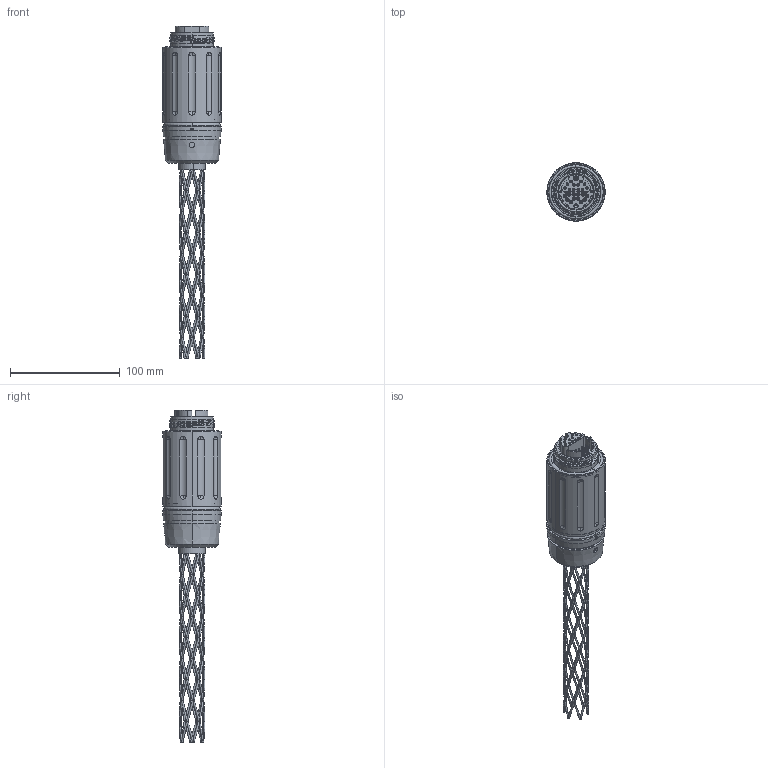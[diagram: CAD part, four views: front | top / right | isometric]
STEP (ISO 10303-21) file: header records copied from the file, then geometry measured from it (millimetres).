
FILE_DESCRIPTION (( 'STEP AP214' ), '1' );
FILE_NAME ('QFOCA3-G1-PHHX-24X-X-GX.STEP', '2025-08-05T20:23:41', ( '' ), ( '' ), 'SwSTEP 2.0', 'SolidWorks 2024', '' );
FILE_SCHEMA (( 'AUTOMOTIVE_DESIGN' ));
Products named in the file (1): QFOCA3-G1-PHHX-24X-X-GX
Bounding box: 53.09 x 53.09 x 302 mm (x, y, z)
Volume: 239504.4 mm3; surface area: 49143.4 mm2
Topology: 4 solids, 22 shells, 1322 faces, 3145 edges, 1847 vertices
Faces by surface type: cylinder 398, cone 256, bspline 226, plane 217, torus 185, sphere 40
Entity records: 143660 total; most frequent: CARTESIAN_POINT 114938, ORIENTED_EDGE 6290, DIRECTION 5918, EDGE_CURVE 3145, AXIS2_PLACEMENT_3D 2525, VERTEX_POINT 1847, EDGE_LOOP 1448, CIRCLE 1428
